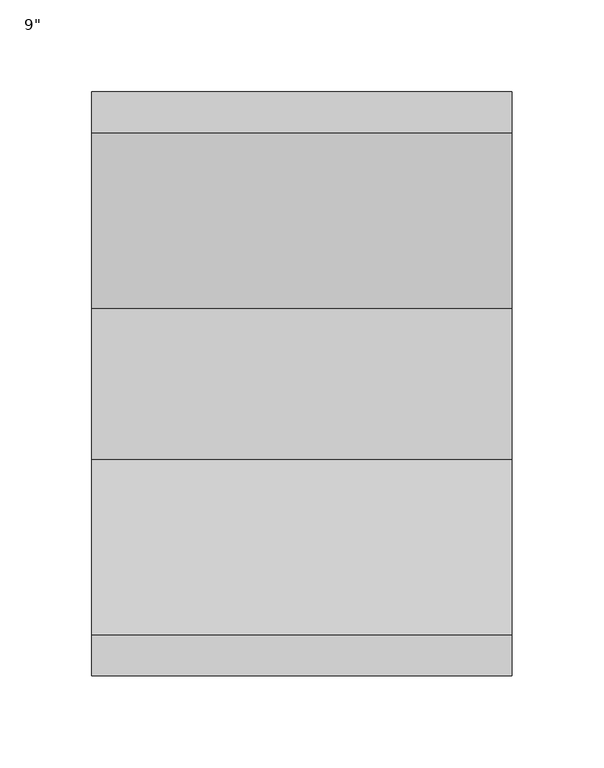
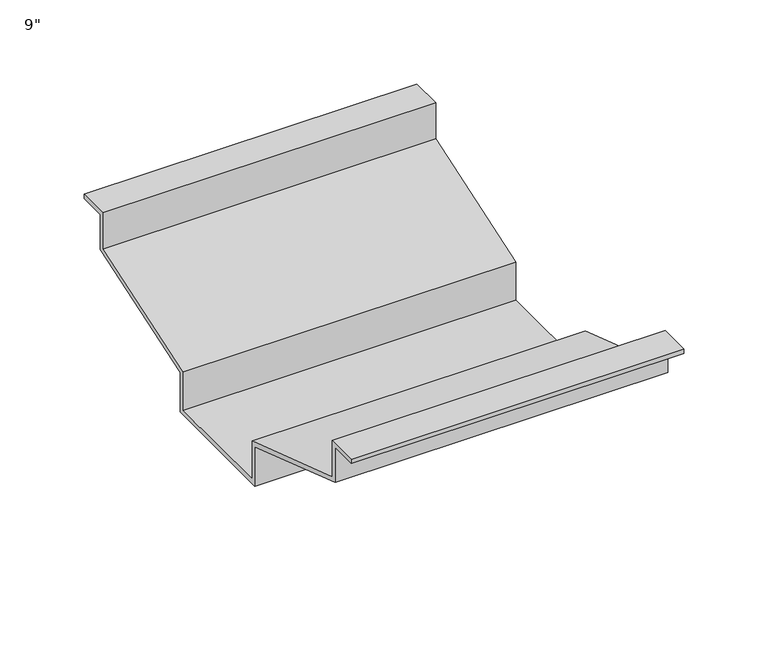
"""IFC4 building model written with IfcOpenShell, lengths in millimetres: furniture geometry."""

from ifc_helpers import new_model, si_unit, frame, origin, place, context, project, spatial, polyline, outline, extrude, source, transform, mapped, element, save


def furniture_c74ffdfc(model_context):
    return source(origin(), model_context, "Body", "SweptSolid", [
        extrude(outline(polyline([(-123.825, 1054.1), (-123.825, 1027.8134105), (-28.575, 996.0634105), (-28.575, 968.375), (53.975, 968.375), (53.975, 996.0634105), (149.225, 1027.8134105), (149.225, 1054.1), (171.45, 1054.1), (171.45, 1050.925), (152.4, 1050.925), (152.4, 1025.525), (57.15, 993.775), (57.15, 965.2), (-31.75, 965.2), (-31.75, 993.775), (-127.0, 1025.525), (-127.0, 1050.925), (-146.05, 1050.925), (-146.05, 1054.1), (-123.825, 1054.1)])), frame((-158.75, 0.0, 0.0), z_axis=(1.0, 0.0, 0.0), x_axis=(0.0, 1.0, 0.0)), (0.0, 0.0, 1.0), 228.6),
    ])


if __name__ == "__main__":
    model = new_model("IFC4")
    model_context = context("Model", 3, world=origin())
    ifc_project = project(units=[si_unit("LENGTHUNIT", "METRE", prefix="MILLI")], contexts=[model_context])
    site = spatial("IfcSite", under=ifc_project)
    building = spatial("IfcBuilding", under=site)
    placement = place(None, origin())
    furniture_shape = furniture_c74ffdfc(model_context)
    element("IfcFurniture", 1, ObjectType="HermanMiller_Ethospace_E2828_CounterTopSupportFiller : 9\"", at=placement, inside=building, context=model_context, shape_type="MappedRepresentation", body=[
        mapped(furniture_shape, transform((0.0, 0.0, 0.0), x_axis=(1.0, 0.0, 0.0), y_axis=(0.0, 1.0, 0.0), z_axis=(0.0, 0.0, 1.0))),
    ])
    save(model, "model.ifc")
